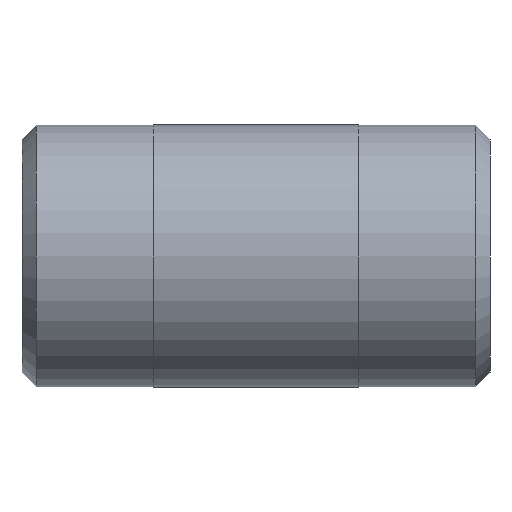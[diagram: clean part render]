
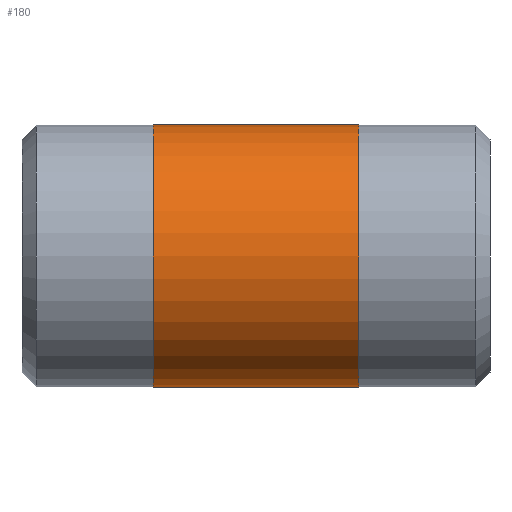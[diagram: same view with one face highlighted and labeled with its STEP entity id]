
A CAD part, left-side view. The second image highlights one B-rep face of the part: STEP entity #180.
In plain terms, the highlighted cylindrical face has radius 10.668 mm (diameter 21.336 mm), a full revolution.
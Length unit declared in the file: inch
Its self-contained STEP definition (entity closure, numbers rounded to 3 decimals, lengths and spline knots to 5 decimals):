
#25=CYLINDRICAL_SURFACE('',#220,0.42);
#34=FACE_OUTER_BOUND('',#47,.T.);
#47=EDGE_LOOP('',(#155,#156,#157,#158,#159,#160));
#55=LINE('',#338,#61);
#61=VECTOR('',#283,0.42);
#77=CIRCLE('',#218,0.42);
#78=CIRCLE('',#219,0.42);
#79=CIRCLE('',#221,0.42);
#80=CIRCLE('',#222,0.42);
#95=VERTEX_POINT('',#329);
#96=VERTEX_POINT('',#330);
#97=VERTEX_POINT('',#334);
#98=VERTEX_POINT('',#335);
#117=EDGE_CURVE('',#95,#96,#77,.T.);
#118=EDGE_CURVE('',#96,#95,#78,.T.);
#119=EDGE_CURVE('',#97,#98,#79,.T.);
#120=EDGE_CURVE('',#98,#97,#80,.T.);
#121=EDGE_CURVE('',#98,#96,#55,.T.);
#155=ORIENTED_EDGE('',*,*,#119,.F.);
#156=ORIENTED_EDGE('',*,*,#120,.F.);
#157=ORIENTED_EDGE('',*,*,#121,.T.);
#158=ORIENTED_EDGE('',*,*,#118,.T.);
#159=ORIENTED_EDGE('',*,*,#117,.T.);
#160=ORIENTED_EDGE('',*,*,#121,.F.);
#180=ADVANCED_FACE('',(#34),#25,.T.);
#218=AXIS2_PLACEMENT_3D('',#331,#273,#274);
#219=AXIS2_PLACEMENT_3D('',#332,#275,#276);
#220=AXIS2_PLACEMENT_3D('',#333,#277,#278);
#221=AXIS2_PLACEMENT_3D('',#336,#279,#280);
#222=AXIS2_PLACEMENT_3D('',#337,#281,#282);
#273=DIRECTION('center_axis',(0.,-1.,0.));
#274=DIRECTION('ref_axis',(1.,0.,0.));
#275=DIRECTION('center_axis',(0.,-1.,0.));
#276=DIRECTION('ref_axis',(1.,0.,0.));
#277=DIRECTION('center_axis',(0.,-1.,0.));
#278=DIRECTION('ref_axis',(0.,0.,-1.));
#279=DIRECTION('center_axis',(0.,-1.,0.));
#280=DIRECTION('ref_axis',(1.,0.,0.));
#281=DIRECTION('center_axis',(0.,-1.,0.));
#282=DIRECTION('ref_axis',(1.,0.,0.));
#283=DIRECTION('',(0.,1.,0.));
#329=CARTESIAN_POINT('',(0.,1.08,-0.42));
#330=CARTESIAN_POINT('',(0.,1.08,0.42));
#331=CARTESIAN_POINT('Origin',(0.,1.08,0.));
#332=CARTESIAN_POINT('Origin',(0.,1.08,0.));
#333=CARTESIAN_POINT('Origin',(0.,0.75,0.));
#334=CARTESIAN_POINT('',(0.,0.42,-0.42));
#335=CARTESIAN_POINT('',(0.,0.42,0.42));
#336=CARTESIAN_POINT('Origin',(0.,0.42,0.));
#337=CARTESIAN_POINT('Origin',(0.,0.42,0.));
#338=CARTESIAN_POINT('',(0.,0.75,0.42));
